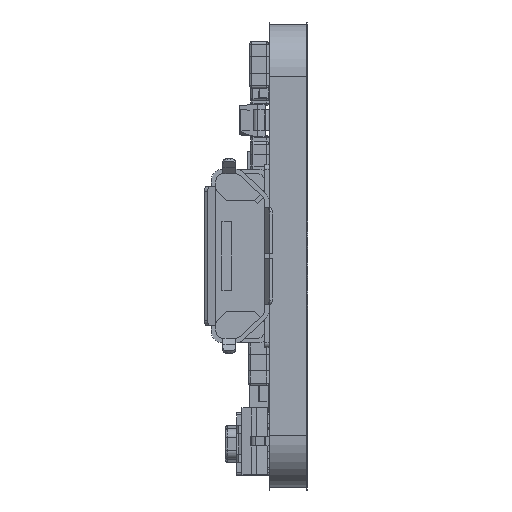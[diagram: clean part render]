
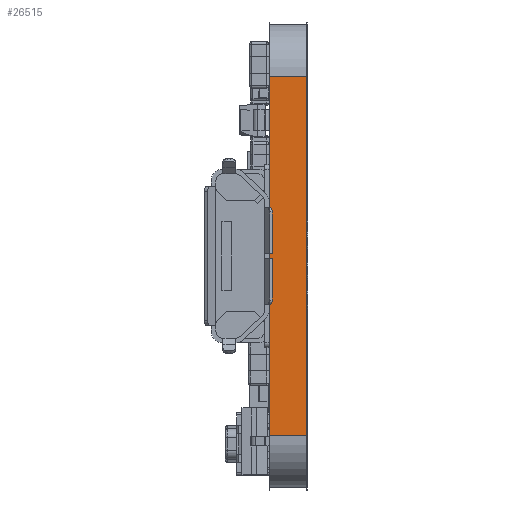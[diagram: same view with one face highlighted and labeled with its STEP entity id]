
A CAD part, left-side view. The second image highlights one B-rep face of the part: STEP entity #26515.
In plain terms, the highlighted planar face has unit normal (-1, 0, 0).
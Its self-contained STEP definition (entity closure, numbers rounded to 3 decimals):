
#26515 = ADVANCED_FACE ( 'NONE', ( #132948 ), #149618, .T. ) ;
#76381 = LINE ( 'NONE', #77819, #76390 ) ;
#76383 = LINE ( 'NONE', #77827, #76398 ) ;
#76390 = VECTOR ( 'NONE', #77779, 1000. ) ;
#76398 = VECTOR ( 'NONE', #77828, 1000. ) ;
#76413 = VECTOR ( 'NONE', #77918, 1000. ) ;
#76423 = LINE ( 'NONE', #77881, #76434 ) ;
#76433 = LINE ( 'NONE', #77941, #76413 ) ;
#76434 = VECTOR ( 'NONE', #77877, 1000. ) ;
#76450 = LINE ( 'NONE', #77924, #76459 ) ;
#76459 = VECTOR ( 'NONE', #77956, 1000. ) ;
#76546 = LINE ( 'NONE', #78028, #76547 ) ;
#76547 = VECTOR ( 'NONE', #78032, 1000. ) ;
#76570 = VECTOR ( 'NONE', #78178, 1000. ) ;
#76580 = LINE ( 'NONE', #78108, #76601 ) ;
#76591 = VECTOR ( 'NONE', #78164, 1000. ) ;
#76599 = LINE ( 'NONE', #78160, #76591 ) ;
#76601 = VECTOR ( 'NONE', #78124, 1000. ) ;
#76603 = LINE ( 'NONE', #78156, #76570 ) ;
#76642 = VECTOR ( 'NONE', #78245, 1000. ) ;
#76661 = LINE ( 'NONE', #78235, #76642 ) ;
#77779 = DIRECTION ( 'NONE',  ( 0., 1., 0. ) ) ;
#77819 = CARTESIAN_POINT ( 'NONE',  ( 100., -1.6, -102.25 ) ) ;
#77827 = CARTESIAN_POINT ( 'NONE',  ( 100., -1.6, -102.25 ) ) ;
#77828 = DIRECTION ( 'NONE',  ( 0., 0., 1. ) ) ;
#77877 = DIRECTION ( 'NONE',  ( 0., 0., 1. ) ) ;
#77881 = CARTESIAN_POINT ( 'NONE',  ( 100., 0., -102.25 ) ) ;
#77918 = DIRECTION ( 'NONE',  ( 0., 0., 1. ) ) ;
#77924 = CARTESIAN_POINT ( 'NONE',  ( 100., -1.6, -117.75 ) ) ;
#77941 = CARTESIAN_POINT ( 'NONE',  ( 100., -1.6, -102.25 ) ) ;
#77956 = DIRECTION ( 'NONE',  ( 0., 1., 0. ) ) ;
#78028 = CARTESIAN_POINT ( 'NONE',  ( 100., 0., -102.25 ) ) ;
#78032 = DIRECTION ( 'NONE',  ( 0., 0., 1. ) ) ;
#78108 = CARTESIAN_POINT ( 'NONE',  ( 100., -1.6, -102.25 ) ) ;
#78124 = DIRECTION ( 'NONE',  ( 0., 0., 1. ) ) ;
#78156 = CARTESIAN_POINT ( 'NONE',  ( 100., 0., -102.25 ) ) ;
#78160 = CARTESIAN_POINT ( 'NONE',  ( 100., 0., -102.25 ) ) ;
#78164 = DIRECTION ( 'NONE',  ( 0., 0., 1. ) ) ;
#78178 = DIRECTION ( 'NONE',  ( 0., 0., -1. ) ) ;
#78235 = CARTESIAN_POINT ( 'NONE',  ( 100., 0., -102.25 ) ) ;
#78245 = DIRECTION ( 'NONE',  ( 0., 0., 1. ) ) ;
#80699 = EDGE_CURVE ( 'NONE', #84899, #84931, #76381, .T. ) ;
#80731 = EDGE_CURVE ( 'NONE', #84902, #84899, #76383, .T. ) ;
#80749 = EDGE_CURVE ( 'NONE', #84898, #84926, #76423, .T. ) ;
#80758 = EDGE_CURVE ( 'NONE', #84947, #85012, #76450, .T. ) ;
#80763 = EDGE_CURVE ( 'NONE', #84947, #84994, #76433, .T. ) ;
#80834 = EDGE_CURVE ( 'NONE', #84926, #84856, #76546, .T. ) ;
#80884 = EDGE_CURVE ( 'NONE', #84994, #84902, #76580, .T. ) ;
#80892 = EDGE_CURVE ( 'NONE', #85012, #84961, #76599, .T. ) ;
#80894 = EDGE_CURVE ( 'NONE', #84931, #84856, #76603, .T. ) ;
#80945 = EDGE_CURVE ( 'NONE', #84961, #84898, #76661, .T. ) ;
#83203 = EDGE_LOOP ( 'NONE', ( #96697, #96710, #96768, #96749, #96850, #96703, #96852, #96928, #96900, #96846 ) ) ;
#84856 = VERTEX_POINT ( 'NONE', #102463 ) ;
#84898 = VERTEX_POINT ( 'NONE', #102487 ) ;
#84899 = VERTEX_POINT ( 'NONE', #102435 ) ;
#84902 = VERTEX_POINT ( 'NONE', #102498 ) ;
#84926 = VERTEX_POINT ( 'NONE', #102660 ) ;
#84931 = VERTEX_POINT ( 'NONE', #102584 ) ;
#84947 = VERTEX_POINT ( 'NONE', #102550 ) ;
#84961 = VERTEX_POINT ( 'NONE', #102616 ) ;
#84994 = VERTEX_POINT ( 'NONE', #102556 ) ;
#85012 = VERTEX_POINT ( 'NONE', #102694 ) ;
#96697 = ORIENTED_EDGE ( 'NONE', *, *, #80892, .F. ) ;
#96703 = ORIENTED_EDGE ( 'NONE', *, *, #80699, .T. ) ;
#96710 = ORIENTED_EDGE ( 'NONE', *, *, #80758, .F. ) ;
#96749 = ORIENTED_EDGE ( 'NONE', *, *, #80884, .T. ) ;
#96768 = ORIENTED_EDGE ( 'NONE', *, *, #80763, .T. ) ;
#96846 = ORIENTED_EDGE ( 'NONE', *, *, #80945, .F. ) ;
#96850 = ORIENTED_EDGE ( 'NONE', *, *, #80731, .T. ) ;
#96852 = ORIENTED_EDGE ( 'NONE', *, *, #80894, .T. ) ;
#96900 = ORIENTED_EDGE ( 'NONE', *, *, #80749, .F. ) ;
#96928 = ORIENTED_EDGE ( 'NONE', *, *, #80834, .F. ) ;
#102435 = CARTESIAN_POINT ( 'NONE',  ( 100., -1.6, -102.25 ) ) ;
#102463 = CARTESIAN_POINT ( 'NONE',  ( 100., 0., -102.929 ) ) ;
#102487 = CARTESIAN_POINT ( 'NONE',  ( 100., 0., -113.862 ) ) ;
#102498 = CARTESIAN_POINT ( 'NONE',  ( 100., -1.6, -102.929 ) ) ;
#102550 = CARTESIAN_POINT ( 'NONE',  ( 100., -1.6, -117.75 ) ) ;
#102556 = CARTESIAN_POINT ( 'NONE',  ( 100., -1.6, -117.071 ) ) ;
#102584 = CARTESIAN_POINT ( 'NONE',  ( 100., 0., -102.25 ) ) ;
#102616 = CARTESIAN_POINT ( 'NONE',  ( 100., 0., -117.071 ) ) ;
#102660 = CARTESIAN_POINT ( 'NONE',  ( 100., 0., -106.163 ) ) ;
#102694 = CARTESIAN_POINT ( 'NONE',  ( 100., 0., -117.75 ) ) ;
#113040 = AXIS2_PLACEMENT_3D ( 'NONE', #149577, #149635, #149604 ) ;
#132948 = FACE_OUTER_BOUND ( 'NONE', #83203, .T. ) ;
#149577 = CARTESIAN_POINT ( 'NONE',  ( 100., -1.6, -102.25 ) ) ;
#149604 = DIRECTION ( 'NONE',  ( 0., 0., 1. ) ) ;
#149618 = PLANE ( 'NONE',  #113040 ) ;
#149635 = DIRECTION ( 'NONE',  ( -1., 0., 0. ) ) ;
